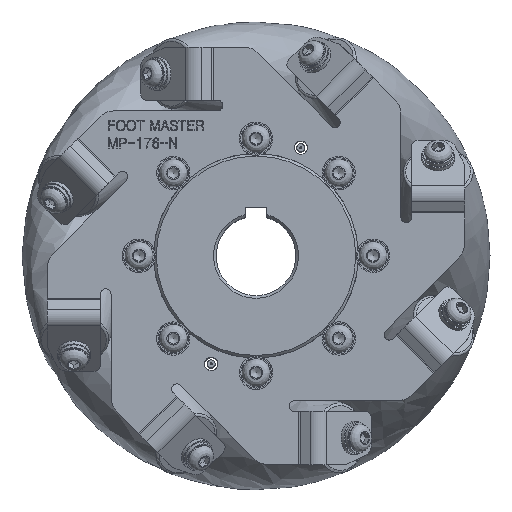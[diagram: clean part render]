
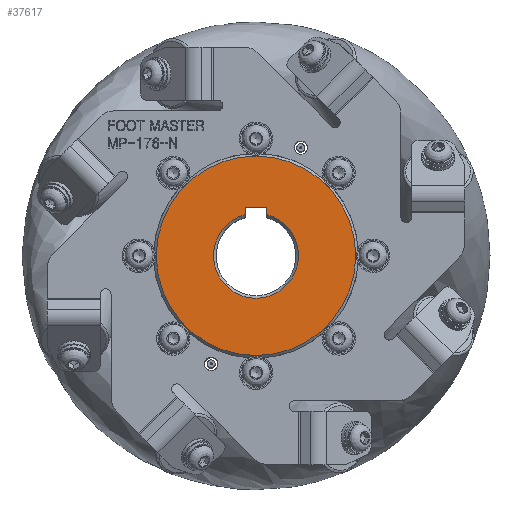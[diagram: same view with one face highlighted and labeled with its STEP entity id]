
A CAD part, top view. The second image highlights one B-rep face of the part: STEP entity #37617.
In plain terms, the highlighted planar face has unit normal (0, 0, 1).
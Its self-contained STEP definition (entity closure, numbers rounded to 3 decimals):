
#1675=CIRCLE('',#39950,16.);
#1676=CIRCLE('',#39952,37.5);
#2664=FACE_BOUND('',#6777,.T.);
#4537=FACE_OUTER_BOUND('',#6776,.T.);
#6776=EDGE_LOOP('',(#30713));
#6777=EDGE_LOOP('',(#30714,#30715,#30716,#30717));
#10540=LINE('',#64241,#13166);
#10543=LINE('',#64251,#13169);
#10547=LINE('',#64265,#13173);
#13166=VECTOR('',#46103,10.);
#13169=VECTOR('',#46108,10.);
#13173=VECTOR('',#46114,10.);
#16754=VERTEX_POINT('',#64236);
#16755=VERTEX_POINT('',#64240);
#16758=VERTEX_POINT('',#64250);
#16760=VERTEX_POINT('',#64256);
#16762=VERTEX_POINT('',#64269);
#21647=EDGE_CURVE('',#16755,#16754,#10540,.T.);
#21651=EDGE_CURVE('',#16758,#16755,#10543,.T.);
#21657=EDGE_CURVE('',#16760,#16758,#10547,.T.);
#21658=EDGE_CURVE('',#16760,#16754,#1675,.T.);
#21659=EDGE_CURVE('',#16762,#16762,#1676,.T.);
#30713=ORIENTED_EDGE('',*,*,#21659,.F.);
#30714=ORIENTED_EDGE('',*,*,#21658,.F.);
#30715=ORIENTED_EDGE('',*,*,#21657,.T.);
#30716=ORIENTED_EDGE('',*,*,#21651,.T.);
#30717=ORIENTED_EDGE('',*,*,#21647,.T.);
#35886=PLANE('',#39951);
#37617=ADVANCED_FACE('',(#4537,#2664),#35886,.T.);
#39950=AXIS2_PLACEMENT_3D('',#64267,#46117,#46118);
#39951=AXIS2_PLACEMENT_3D('',#64268,#46119,#46120);
#39952=AXIS2_PLACEMENT_3D('',#64270,#46121,#46122);
#46103=DIRECTION('',(0.,-1.,0.));
#46108=DIRECTION('',(1.,0.,0.));
#46114=DIRECTION('',(0.,1.,0.));
#46117=DIRECTION('center_axis',(0.,0.,
1.));
#46118=DIRECTION('ref_axis',(1.,0.,0.));
#46119=DIRECTION('center_axis',(0.,0.,
1.));
#46120=DIRECTION('ref_axis',(1.,0.,0.));
#46121=DIRECTION('center_axis',(0.,0.,
-1.));
#46122=DIRECTION('ref_axis',(-1.,0.,0.));
#64236=CARTESIAN_POINT('',(4.,15.492,45.));
#64240=CARTESIAN_POINT('',(4.,18.3,45.));
#64241=CARTESIAN_POINT('',(4.,9.15,45.));
#64250=CARTESIAN_POINT('',(-4.,18.3,45.));
#64251=CARTESIAN_POINT('',(-2.,18.3,45.));
#64256=CARTESIAN_POINT('',(-4.,15.492,45.));
#64265=CARTESIAN_POINT('',(-4.,7.228,45.));
#64267=CARTESIAN_POINT('Origin',(0.,0.,
45.));
#64268=CARTESIAN_POINT('Origin',(0.,0.,
45.));
#64269=CARTESIAN_POINT('',(37.5,0.,45.));
#64270=CARTESIAN_POINT('Origin',(0.,0.,
45.));
